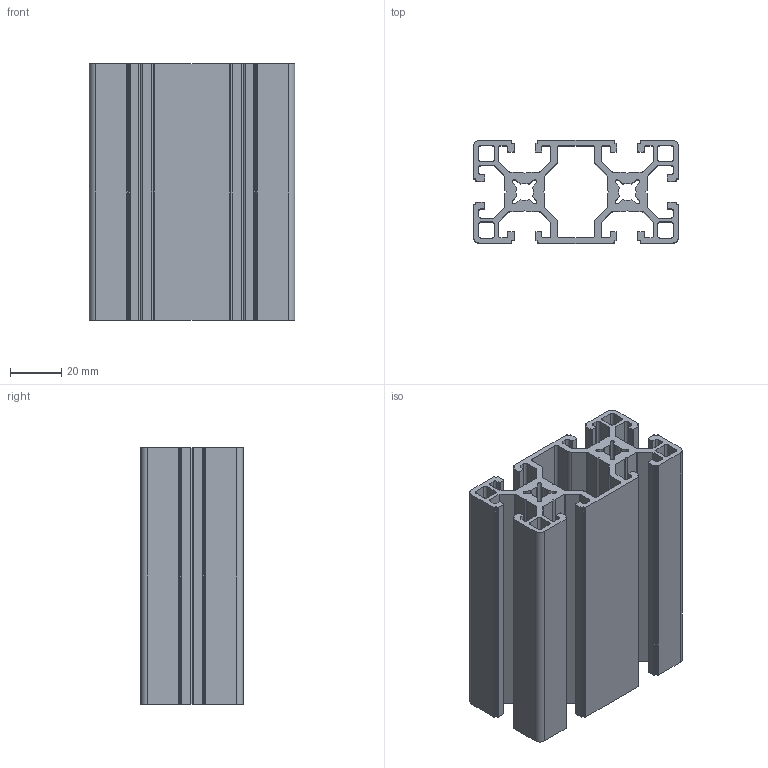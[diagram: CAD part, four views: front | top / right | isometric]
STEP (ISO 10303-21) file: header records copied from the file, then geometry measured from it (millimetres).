
FILE_DESCRIPTION (( 'STEP AP203' ), '1' );
FILE_NAME ('APS-8-4080-100.STEP', '2014-12-30T08:41:25', ( 'Windows 蚚誧' ), ( 'Users' ), 'SwSTEP 2.0', 'SolidWorks 2012', '' );
FILE_SCHEMA (( 'CONFIG_CONTROL_DESIGN' ));
Length unit declared in the file: millimetre
Products named in the file (1): APS-8-4080-100
Bounding box: 80 x 40 x 100 mm (x, y, z)
Volume: 104255.2 mm3; surface area: 85075.9 mm2
Topology: 1 solids, 1 shells, 362 faces, 1080 edges, 720 vertices
Faces by surface type: plane 182, cylinder 180
Entity records: 12369 total; most frequent: DIRECTION 2166, CARTESIAN_POINT 2163, ORIENTED_EDGE 2160, EDGE_CURVE 1080, AXIS2_PLACEMENT_3D 723, LINE 720, VECTOR 720, VERTEX_POINT 720
